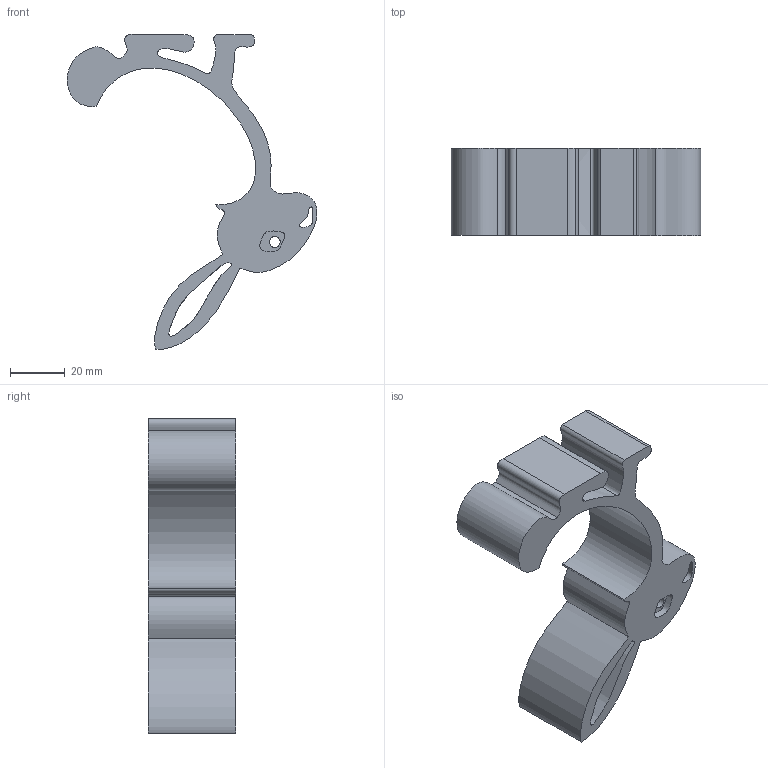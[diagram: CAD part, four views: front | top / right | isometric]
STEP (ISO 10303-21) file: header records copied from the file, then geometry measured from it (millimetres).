
FILE_DESCRIPTION(/* description */ (''),/* implementation_level */ '2;1');
FILE_NAME(/* name */ 'Z:\CAD Files\Development\Workspace\Easter Sale 24\Easter Bunny- Single Egg.stp',/* time_stamp */ '2024-03-20T13:52:15+11:00',/* author */ ('Tyler'),/* organization */ (''),/* preprocessor_version */ 'ST-DEVELOPER v17',/* originating_system */ 'Autodesk Inventor 2019',/* authorisation */ '');
FILE_SCHEMA (('AUTOMOTIVE_DESIGN { 1 0 10303 214 3 1 1 }'));
Length unit declared in the file: millimetre
Products named in the file (1): Part11
Bounding box: 91.1 x 31.8 x 115.01 mm (x, y, z)
Volume: 68811 mm3; surface area: 23447.1 mm2
Topology: 1 solids, 1 shells, 31 faces, 81 edges, 54 vertices
Faces by surface type: bspline 21, plane 6, cylinder 4
Full cylindrical faces by diameter (mm): 3.975 x1
Entity records: 1454 total; most frequent: CARTESIAN_POINT 736, ORIENTED_EDGE 162, EDGE_CURVE 81, DIRECTION 69, VERTEX_POINT 54, B_SPLINE_CURVE_WITH_KNOTS 42, EDGE_LOOP 39, STYLED_ITEM 32
